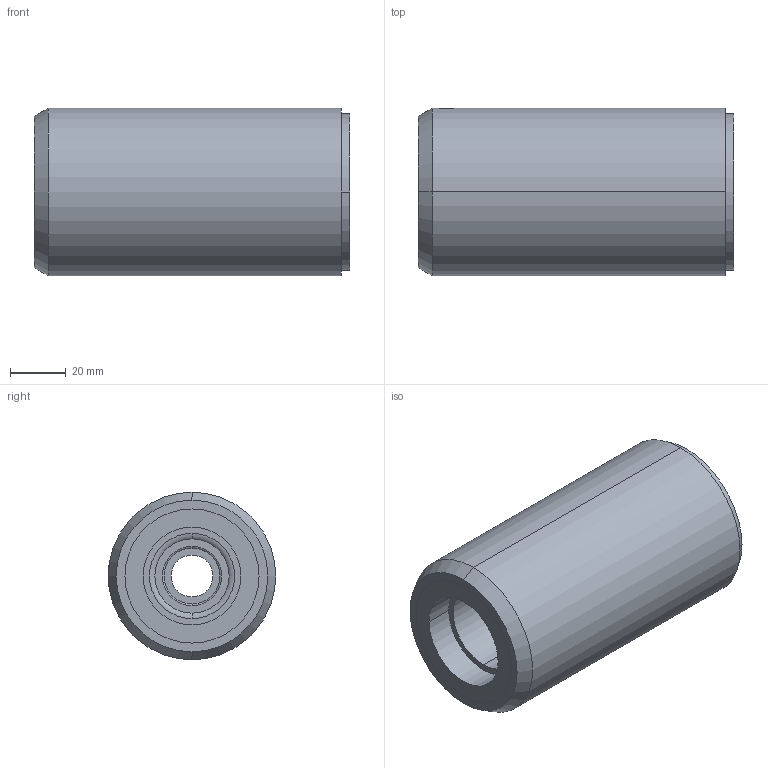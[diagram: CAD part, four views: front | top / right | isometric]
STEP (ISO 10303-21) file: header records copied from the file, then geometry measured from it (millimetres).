
FILE_DESCRIPTION (( 'STEP AP203' ), '1' );
FILE_NAME ('HLM-2.STEP', '2022-09-09T15:31:28', ( '' ), ( '' ), 'SwSTEP 2.0', 'SolidWorks 2019', '' );
FILE_SCHEMA (( 'CONFIG_CONTROL_DESIGN' ));
Length unit declared in the file: millimetre
Products named in the file (6): socket set screw cup point_din_DIN 916 - M8 x 6-C; HLM-2; HLM-Hülse 2_011.00000670.300_Kunde; radial ball bearing_68_din_DIN 625 - 6004 - 12,SI,NC,12_68; HLM-ARO 2_011.00000669.300_Kunde; HLM-IRO 2_011.00000668.300_Kunde
Assembly tree (6 placements, depth 2):
  HLM-2
    HLM-ARO 2_011.00000669.300_Kunde
    HLM-IRO 2_011.00000668.300_Kunde
    HLM-Hülse 2_011.00000670.300_Kunde
    radial ball bearing_68_din_DIN 625 - 6004 - 12,SI,NC,12_68  x2
    socket set screw cup point_din_DIN 916 - M8 x 6-C
Bounding box: 113 x 60 x 60 mm (x, y, z)
Volume: 220256.9 mm3; surface area: 93334.4 mm2
Topology: 6 solids, 6 shells, 147 faces, 305 edges, 187 vertices
Faces by surface type: cylinder 72, plane 37, torus 28, cone 10
Entity records: 4007 total; most frequent: CARTESIAN_POINT 664, DIRECTION 649, ORIENTED_EDGE 494, AXIS2_PLACEMENT_3D 280, EDGE_CURVE 247, VERTEX_POINT 155, CIRCLE 152, EDGE_LOOP 146
